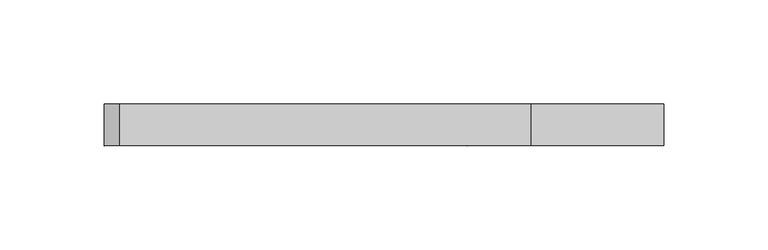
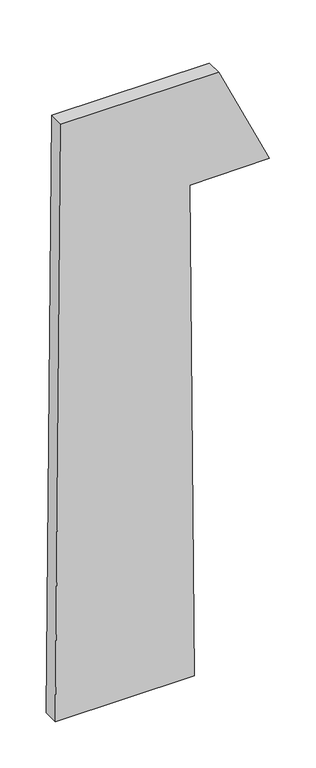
"""IFC4 building model written with IfcOpenShell, lengths in millimetres: plate geometry, 空系统嵌板 : 空."""

import ifcopenshell
import ifcopenshell.guid

model = None  # the IFC model being written
_history = None  # IfcOwnerHistory: only IFC2X3 demands one
_inside = {}  # id of a spatial element -> (the spatial element, [elements in it])
_under = {}  # id of a project, library or spatial element -> (it, [spatial elements below it])
_declared = {}  # id of a project -> (the project, [libraries it declares])
_typed = {}  # id of a type object -> (the type object, [elements of that type])
_made_of = {}  # id of a material, layer set ... -> (it, [elements and type objects made of it])


def new_model(schema):
    """Start an empty IFC model of exactly this schema.

    Asked for "IFC4X3", IfcOpenShell would pick the latest addendum, in which some entities
    have other attributes; the version numbers below select the first issue.
    IFC2X3 requires an IfcOwnerHistory on every rooted entity: one is made here for all.
    """
    global model, _history
    if schema == "IFC4X3":
        model = ifcopenshell.file(schema_version=(4, 3, 0, 0))
    else:
        model = ifcopenshell.file(schema=schema)
    _inside.clear()
    _under.clear()
    _declared.clear()
    _typed.clear()
    _made_of.clear()
    _history = None
    if model.schema == "IFC2X3":
        org = make("IfcOrganization", Name="unknown")
        user = make(
            "IfcPersonAndOrganization",
            ThePerson=make("IfcPerson", FamilyName="unknown"),
            TheOrganization=org,
        )
        app = make(
            "IfcApplication",
            ApplicationDeveloper=org,
            Version="unknown",
            ApplicationFullName="unknown",
            ApplicationIdentifier="unknown",
        )
        _history = make(
            "IfcOwnerHistory",
            OwningUser=user,
            OwningApplication=app,
            ChangeAction="ADDED",
            CreationDate=0,
        )
    return model


def make(cls, **values):
    """One entity of the class cls with the attributes given. An attribute that is None is left unset."""
    return model.create_entity(
        cls, **{name: value for name, value in values.items() if value is not None}
    )


def rooted(cls, **values):
    """An entity with a GlobalId (a new one), such as an element, a storey or a relation."""
    return make(cls, GlobalId=ifcopenshell.guid.new(), OwnerHistory=_history, **values)


def si_unit(unit_type, name, prefix=None):
    """IfcSIUnit, for example si_unit("LENGTHUNIT", "METRE", prefix="MILLI")."""
    return make("IfcSIUnit", UnitType=unit_type, Prefix=prefix, Name=name)


def assignment(units):
    """IfcUnitAssignment: the units of a project."""
    return None if units is None else make("IfcUnitAssignment", Units=units)


def point(xyz):
    """IfcCartesianPoint."""
    return None if xyz is None else make("IfcCartesianPoint", Coordinates=xyz)


def direction(xyz):
    """IfcDirection."""
    return None if xyz is None else make("IfcDirection", DirectionRatios=xyz)


def frame(location, z_axis=None, x_axis=None):
    """IfcAxis2Placement3D, a coordinate frame: its origin and axes. An axis left out is left unset."""
    return make(
        "IfcAxis2Placement3D",
        Location=point(location),
        Axis=direction(z_axis),
        RefDirection=direction(x_axis),
    )


def origin():
    """The frame at (0, 0, 0) with its axes left unset."""
    return frame((0.0, 0.0, 0.0))


def place(relative_to, where):
    """IfcLocalPlacement: puts the frame where relative to a parent placement (None: the world)."""
    return make(
        "IfcLocalPlacement", PlacementRelTo=relative_to, RelativePlacement=where
    )


def context(
    kind, dimensions, precision=None, world=None, true_north=None, identifier=None
):
    """IfcGeometricRepresentationContext, for example the 3D "Model" context."""
    return make(
        "IfcGeometricRepresentationContext",
        ContextIdentifier=identifier,
        ContextType=kind,
        CoordinateSpaceDimension=dimensions,
        Precision=precision,
        WorldCoordinateSystem=world,
        TrueNorth=true_north,
    )


def project(units=None, contexts=None):
    """IfcProject with its units and contexts."""
    return rooted(
        "IfcProject",
        Name="project",
        RepresentationContexts=contexts,
        UnitsInContext=assignment(units),
    )


def spatial(cls, under=None, at=None, **own):
    """A site, building, storey or space (cls), placed at a placement, below another one or the project."""
    s = rooted(cls, ObjectPlacement=at, **own)
    if under is not None:
        _under.setdefault(under.id(), (under, []))[1].append(s)
    return s


def polyline(points):
    """IfcPolyline through the points."""
    return make("IfcPolyline", Points=[point(p) for p in points])


def outline(outer, holes=None, kind="AREA"):
    """IfcArbitraryClosedProfileDef: a profile drawn as a closed curve; with holes, ...WithVoids."""
    if holes is None:
        return make("IfcArbitraryClosedProfileDef", ProfileType=kind, OuterCurve=outer)
    return make(
        "IfcArbitraryProfileDefWithVoids",
        ProfileType=kind,
        OuterCurve=outer,
        InnerCurves=holes,
    )


def extrude(swept, where, along, depth):
    """IfcExtrudedAreaSolid: the profile swept, set in the frame where, extruded along a direction by depth."""
    return make(
        "IfcExtrudedAreaSolid",
        SweptArea=swept,
        Position=where,
        ExtrudedDirection=direction(along),
        Depth=depth,
    )


def shape(context_of_items, identifier, shape_type, items):
    """IfcShapeRepresentation: the items that make up one representation, for example the "Body"."""
    return make(
        "IfcShapeRepresentation",
        ContextOfItems=context_of_items,
        RepresentationIdentifier=identifier,
        RepresentationType=shape_type,
        Items=items,
    )


def source(mapping_origin, context_of_items, identifier, shape_type, items):
    """IfcRepresentationMap: a shape defined once, which mapped items show again and again."""
    return make(
        "IfcRepresentationMap",
        MappingOrigin=mapping_origin,
        MappedRepresentation=shape(context_of_items, identifier, shape_type, items),
    )


def transform(
    local_origin,
    x_axis=None,
    y_axis=None,
    z_axis=None,
    scale=None,
    scale2=None,
    scale3=None,
    uniform=True,
):
    """IfcCartesianTransformationOperator3D, or its non-uniform kind. x_axis, y_axis, z_axis: its Axis1, 2, 3."""
    if uniform:
        return make(
            "IfcCartesianTransformationOperator3D",
            Axis1=direction(x_axis),
            Axis2=direction(y_axis),
            LocalOrigin=point(local_origin),
            Scale=scale,
            Axis3=direction(z_axis),
        )
    return make(
        "IfcCartesianTransformationOperator3DnonUniform",
        Axis1=direction(x_axis),
        Axis2=direction(y_axis),
        LocalOrigin=point(local_origin),
        Scale=scale,
        Axis3=direction(z_axis),
        Scale2=scale2,
        Scale3=scale3,
    )


def mapped(mapping_source, mapping_target):
    """IfcMappedItem: shows the shape of a source again, moved by a transform."""
    return make(
        "IfcMappedItem", MappingSource=mapping_source, MappingTarget=mapping_target
    )


def made_of(thing, what):
    """Note that an element or type object is made of a material, layer set ...; save() writes the relation."""
    if what is not None:
        _made_of.setdefault(what.id(), (what, []))[1].append(thing)
    return thing


def element(
    cls,
    number,
    at=None,
    inside=None,
    cuts=None,
    type_object=None,
    material=None,
    context=None,
    identifier="Body",
    shape_type=None,
    held_by="IfcProductDefinitionShape",
    body=None,
    shapes=None,
    **own,
):
    """One element of the class cls, such as IfcWall. Its Tag is "e" and its number.

    at: its placement. inside: the storey or other place that contains it. cuts: it is an
    opening in that element (IfcRelVoidsElement). A single representation is given by context,
    identifier, shape_type and body (its items); several are given by shapes. held_by: the class
    of the entity that holds the representations. save() writes the other relations.
    """
    e = rooted(cls, Tag="e%d" % number, ObjectPlacement=at, **own)
    if body is not None:
        shapes = [shape(context, identifier, shape_type, body)]
    if shapes is not None:
        e.Representation = make(held_by, Representations=shapes)
    if inside is not None:
        _inside.setdefault(inside.id(), (inside, []))[1].append(e)
    if cuts is not None:
        rooted(
            "IfcRelVoidsElement", RelatingBuildingElement=cuts, RelatedOpeningElement=e
        )
    if type_object is not None:
        _typed.setdefault(type_object.id(), (type_object, []))[1].append(e)
    return made_of(e, material)


def aggregate(whole, parts):
    """IfcRelAggregates: a whole, such as a stair, and the parts it consists of."""
    return rooted("IfcRelAggregates", RelatingObject=whole, RelatedObjects=parts)


def save(model, path):
    """Write the relations noted so far, then the file.

    IfcRelAggregates (storeys below a building ...), IfcRelContainedInSpatialStructure (elements
    in a storey), IfcRelDefinesByType, IfcRelAssociatesMaterial and IfcRelDeclares: one each for
    every whole, place, type object, material and project.
    """
    for whole, parts in _under.values():
        aggregate(whole, parts)
    for where, things in _inside.values():
        rooted(
            "IfcRelContainedInSpatialStructure",
            RelatedElements=things,
            RelatingStructure=where,
        )
    for kind, things in _typed.values():
        rooted("IfcRelDefinesByType", RelatedObjects=things, RelatingType=kind)
    for what, things in _made_of.values():
        rooted("IfcRelAssociatesMaterial", RelatedObjects=things, RelatingMaterial=what)
    for by, libraries in _declared.values():
        rooted("IfcRelDeclares", RelatingContext=by, RelatedDefinitions=libraries)
    model.write(path)


def plate_38bc2d65(model_context):
    return source(origin(), model_context, "Body", "SweptSolid", [
        extrude(outline(polyline([(0.0, -134.3282191), (0.0, 40.0489001), (652.4964795, 34.3320571), (653.3725951, 134.3282191), (789.6112673, 70.6191159), (789.9223879, -127.1395407), (0.0, -134.3282191)])), frame((0.0, -10.0, 0.0), z_axis=(0.0, 1.0, 0.0), x_axis=(0.0, 0.0, 1.0)), (0.0, 0.0, 1.0), 20.0),
    ])


if __name__ == "__main__":
    model = new_model("IFC4")
    model_context = context("Model", 3, world=origin())
    ifc_project = project(units=[si_unit("LENGTHUNIT", "METRE", prefix="MILLI")], contexts=[model_context])
    site = spatial("IfcSite", under=ifc_project)
    building = spatial("IfcBuilding", under=site)
    placement = place(None, origin())
    plate_shape = plate_38bc2d65(model_context)
    element("IfcPlate", 1, ObjectType="空系统嵌板 : 空", at=placement, inside=building, context=model_context, shape_type="MappedRepresentation", body=[
        mapped(plate_shape, transform((0.0, 0.0, 0.0), x_axis=(1.0, 0.0, 0.0), y_axis=(0.0, 1.0, 0.0), z_axis=(0.0, 0.0, 1.0))),
    ])
    save(model, "model.ifc")
